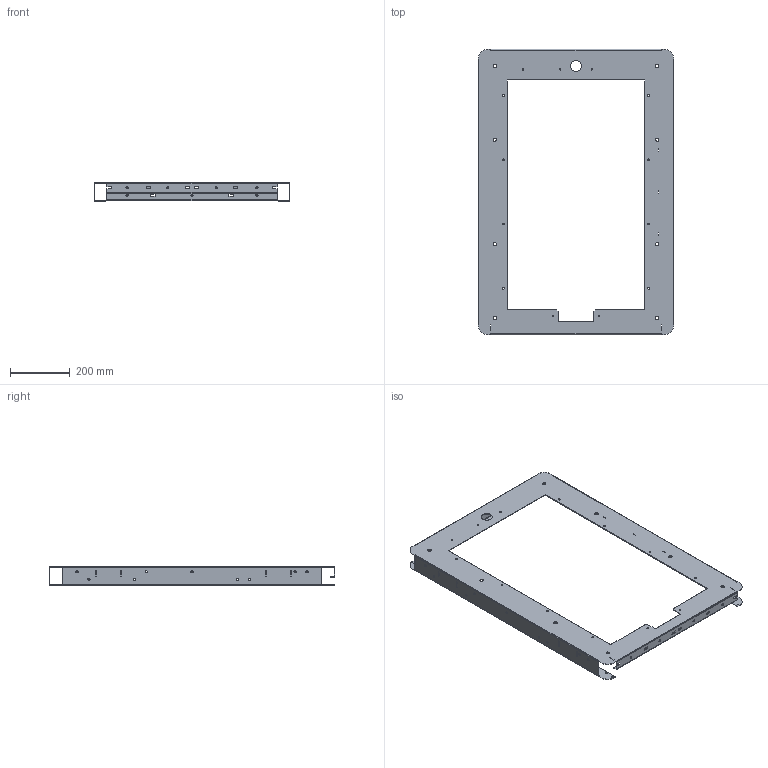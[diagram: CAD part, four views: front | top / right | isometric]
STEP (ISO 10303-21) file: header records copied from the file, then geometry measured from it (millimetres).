
FILE_DESCRIPTION (( 'STEP AP203' ), '1' );
FILE_NAME ('庋.803-5-21.0.0.1.STEP', '2021-03-06T16:25:59', ( '' ), ( '' ), 'SwSTEP 2.0', 'SolidWorks 2016', '' );
FILE_SCHEMA (( 'CONFIG_CONTROL_DESIGN' ));
Length unit declared in the file: millimetre
Products named in the file (1): 庋.803-5-21.0.0.1
Bounding box: 656 x 956 x 63 mm (x, y, z)
Volume: 757939.2 mm3; surface area: 1024261.6 mm2
Topology: 1 solids, 1 shells, 352 faces, 986 edges, 636 vertices
Faces by surface type: plane 204, cylinder 148
Entity records: 11691 total; most frequent: DIRECTION 1988, CARTESIAN_POINT 1975, ORIENTED_EDGE 1972, EDGE_CURVE 986, LINE 690, VECTOR 690, AXIS2_PLACEMENT_3D 649, VERTEX_POINT 636
